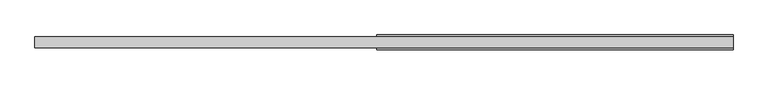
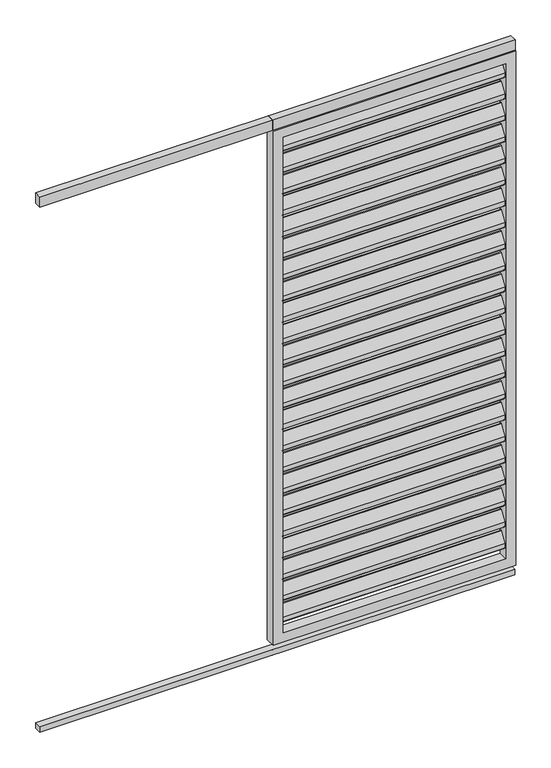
"""IFC4 building model written with IfcOpenShell, lengths in millimetres: proxy geometry, Renson_Camargue_Loggia_Paro_Aluminium : Renson_Camargue_Loggia_Paro_Aluminium."""

from ifc_helpers import new_model, si_unit, point, frame, frame_2d, origin, origin_with_axes, place, context, project, spatial, polyline, circle_curve, trimmed, segment, composite_curve, outline, extrude, source, transform, mapped, element, save


def generic_models_f57387b0(model_context):
    return source(origin(), model_context, "Body", "SweptSolid", [
        extrude(outline(composite_curve([segment(trimmed(circle_curve(frame_2d((12.6675921, 2162.6587719)), 3.0), [point((10.1515804, 2164.292689))], [point((15.6675921, 2162.6587719))], False, "CARTESIAN"), True, "CONTINUOUS"), segment(polyline([(15.6675921, 2162.6587719), (15.6675921, 2144.2979873)]), True, "CONTINUOUS"), segment(trimmed(circle_curve(frame_2d((12.6675921, 2144.2979873)), 3.0), [point((15.6675921, 2144.2979873))], [point((15.1836038, 2142.6640702))], False, "CARTESIAN"), True, "CONTINUOUS"), segment(polyline([(15.1836038, 2142.6640702), (-8.8163962, 2105.707311)]), True, "CONTINUOUS"), segment(trimmed(circle_curve(frame_2d((-11.3324079, 2107.3412281)), 3.0), [point((-8.8163962, 2105.707311))], [point((-14.3324079, 2107.3412281))], False, "CARTESIAN"), True, "CONTINUOUS"), segment(polyline([(-14.3324079, 2107.3412281), (-14.3324079, 2126.5906532), (10.1515804, 2164.292689)]), True, "CONTINUOUS")], self_intersect=False)), frame((-442.5, 0.0, 0.0), z_axis=(1.0, 0.0, 0.0), x_axis=(0.0, 1.0, 0.0)), (0.0, 0.0, 1.0), 885.0),
        extrude(outline(composite_curve([segment(trimmed(circle_curve(frame_2d((12.6675921, 2072.6587719)), 3.0), [point((10.1515804, 2074.292689))], [point((15.6675921, 2072.6587719))], False, "CARTESIAN"), True, "CONTINUOUS"), segment(polyline([(15.6675921, 2072.6587719), (15.6675921, 2054.2979873)]), True, "CONTINUOUS"), segment(trimmed(circle_curve(frame_2d((12.6675921, 2054.2979873)), 3.0), [point((15.6675921, 2054.2979873))], [point((15.1836038, 2052.6640702))], False, "CARTESIAN"), True, "CONTINUOUS"), segment(polyline([(15.1836038, 2052.6640702), (-8.8163962, 2015.707311)]), True, "CONTINUOUS"), segment(trimmed(circle_curve(frame_2d((-11.3324079, 2017.3412281)), 3.0), [point((-8.8163962, 2015.707311))], [point((-14.3324079, 2017.3412281))], False, "CARTESIAN"), True, "CONTINUOUS"), segment(polyline([(-14.3324079, 2017.3412281), (-14.3324079, 2036.5906532), (10.1515804, 2074.292689)]), True, "CONTINUOUS")], self_intersect=False)), frame((-442.5, 0.0, 0.0), z_axis=(1.0, 0.0, 0.0), x_axis=(0.0, 1.0, 0.0)), (0.0, 0.0, 1.0), 885.0),
        extrude(outline(composite_curve([segment(trimmed(circle_curve(frame_2d((12.6675921, 1982.6587719)), 3.0), [point((10.1515804, 1984.292689))], [point((15.6675921, 1982.6587719))], False, "CARTESIAN"), True, "CONTINUOUS"), segment(polyline([(15.6675921, 1982.6587719), (15.6675921, 1964.2979873)]), True, "CONTINUOUS"), segment(trimmed(circle_curve(frame_2d((12.6675921, 1964.2979873)), 3.0), [point((15.6675921, 1964.2979873))], [point((15.1836038, 1962.6640702))], False, "CARTESIAN"), True, "CONTINUOUS"), segment(polyline([(15.1836038, 1962.6640702), (-8.8163962, 1925.707311)]), True, "CONTINUOUS"), segment(trimmed(circle_curve(frame_2d((-11.3324079, 1927.3412281)), 3.0), [point((-8.8163962, 1925.707311))], [point((-14.3324079, 1927.3412281))], False, "CARTESIAN"), True, "CONTINUOUS"), segment(polyline([(-14.3324079, 1927.3412281), (-14.3324079, 1946.5906532), (10.1515804, 1984.292689)]), True, "CONTINUOUS")], self_intersect=False)), frame((-442.5, 0.0, 0.0), z_axis=(1.0, 0.0, 0.0), x_axis=(0.0, 1.0, 0.0)), (0.0, 0.0, 1.0), 885.0),
        extrude(outline(composite_curve([segment(trimmed(circle_curve(frame_2d((12.6675921, 1892.6587719)), 3.0), [point((10.1515804, 1894.292689))], [point((15.6675921, 1892.6587719))], False, "CARTESIAN"), True, "CONTINUOUS"), segment(polyline([(15.6675921, 1892.6587719), (15.6675921, 1874.2979873)]), True, "CONTINUOUS"), segment(trimmed(circle_curve(frame_2d((12.6675921, 1874.2979873)), 3.0), [point((15.6675921, 1874.2979873))], [point((15.1836038, 1872.6640702))], False, "CARTESIAN"), True, "CONTINUOUS"), segment(polyline([(15.1836038, 1872.6640702), (-8.8163962, 1835.707311)]), True, "CONTINUOUS"), segment(trimmed(circle_curve(frame_2d((-11.3324079, 1837.3412281)), 3.0), [point((-8.8163962, 1835.707311))], [point((-14.3324079, 1837.3412281))], False, "CARTESIAN"), True, "CONTINUOUS"), segment(polyline([(-14.3324079, 1837.3412281), (-14.3324079, 1856.5906532), (10.1515804, 1894.292689)]), True, "CONTINUOUS")], self_intersect=False)), frame((-442.5, 0.0, 0.0), z_axis=(1.0, 0.0, 0.0), x_axis=(0.0, 1.0, 0.0)), (0.0, 0.0, 1.0), 885.0),
        extrude(outline(composite_curve([segment(trimmed(circle_curve(frame_2d((12.6675921, 1802.6587719)), 3.0), [point((10.1515804, 1804.292689))], [point((15.6675921, 1802.6587719))], False, "CARTESIAN"), True, "CONTINUOUS"), segment(polyline([(15.6675921, 1802.6587719), (15.6675921, 1784.2979873)]), True, "CONTINUOUS"), segment(trimmed(circle_curve(frame_2d((12.6675921, 1784.2979873)), 3.0), [point((15.6675921, 1784.2979873))], [point((15.1836038, 1782.6640702))], False, "CARTESIAN"), True, "CONTINUOUS"), segment(polyline([(15.1836038, 1782.6640702), (-8.8163962, 1745.707311)]), True, "CONTINUOUS"), segment(trimmed(circle_curve(frame_2d((-11.3324079, 1747.3412281)), 3.0), [point((-8.8163962, 1745.707311))], [point((-14.3324079, 1747.3412281))], False, "CARTESIAN"), True, "CONTINUOUS"), segment(polyline([(-14.3324079, 1747.3412281), (-14.3324079, 1766.5906532), (10.1515804, 1804.292689)]), True, "CONTINUOUS")], self_intersect=False)), frame((-442.5, 0.0, 0.0), z_axis=(1.0, 0.0, 0.0), x_axis=(0.0, 1.0, 0.0)), (0.0, 0.0, 1.0), 885.0),
        extrude(outline(composite_curve([segment(trimmed(circle_curve(frame_2d((12.6675921, 1712.6587719)), 3.0), [point((10.1515804, 1714.292689))], [point((15.6675921, 1712.6587719))], False, "CARTESIAN"), True, "CONTINUOUS"), segment(polyline([(15.6675921, 1712.6587719), (15.6675921, 1694.2979873)]), True, "CONTINUOUS"), segment(trimmed(circle_curve(frame_2d((12.6675921, 1694.2979873)), 3.0), [point((15.6675921, 1694.2979873))], [point((15.1836038, 1692.6640702))], False, "CARTESIAN"), True, "CONTINUOUS"), segment(polyline([(15.1836038, 1692.6640702), (-8.8163962, 1655.707311)]), True, "CONTINUOUS"), segment(trimmed(circle_curve(frame_2d((-11.3324079, 1657.3412281)), 3.0), [point((-8.8163962, 1655.707311))], [point((-14.3324079, 1657.3412281))], False, "CARTESIAN"), True, "CONTINUOUS"), segment(polyline([(-14.3324079, 1657.3412281), (-14.3324079, 1676.5906532), (10.1515804, 1714.292689)]), True, "CONTINUOUS")], self_intersect=False)), frame((-442.5, 0.0, 0.0), z_axis=(1.0, 0.0, 0.0), x_axis=(0.0, 1.0, 0.0)), (0.0, 0.0, 1.0), 885.0),
        extrude(outline(composite_curve([segment(trimmed(circle_curve(frame_2d((12.6675921, 1622.6587719)), 3.0), [point((10.1515804, 1624.292689))], [point((15.6675921, 1622.6587719))], False, "CARTESIAN"), True, "CONTINUOUS"), segment(polyline([(15.6675921, 1622.6587719), (15.6675921, 1604.2979873)]), True, "CONTINUOUS"), segment(trimmed(circle_curve(frame_2d((12.6675921, 1604.2979873)), 3.0), [point((15.6675921, 1604.2979873))], [point((15.1836038, 1602.6640702))], False, "CARTESIAN"), True, "CONTINUOUS"), segment(polyline([(15.1836038, 1602.6640702), (-8.8163962, 1565.707311)]), True, "CONTINUOUS"), segment(trimmed(circle_curve(frame_2d((-11.3324079, 1567.3412281)), 3.0), [point((-8.8163962, 1565.707311))], [point((-14.3324079, 1567.3412281))], False, "CARTESIAN"), True, "CONTINUOUS"), segment(polyline([(-14.3324079, 1567.3412281), (-14.3324079, 1586.5906532), (10.1515804, 1624.292689)]), True, "CONTINUOUS")], self_intersect=False)), frame((-442.5, 0.0, 0.0), z_axis=(1.0, 0.0, 0.0), x_axis=(0.0, 1.0, 0.0)), (0.0, 0.0, 1.0), 885.0),
        extrude(outline(composite_curve([segment(trimmed(circle_curve(frame_2d((12.6675921, 1532.6587719)), 3.0), [point((10.1515804, 1534.292689))], [point((15.6675921, 1532.6587719))], False, "CARTESIAN"), True, "CONTINUOUS"), segment(polyline([(15.6675921, 1532.6587719), (15.6675921, 1514.2979873)]), True, "CONTINUOUS"), segment(trimmed(circle_curve(frame_2d((12.6675921, 1514.2979873)), 3.0), [point((15.6675921, 1514.2979873))], [point((15.1836038, 1512.6640702))], False, "CARTESIAN"), True, "CONTINUOUS"), segment(polyline([(15.1836038, 1512.6640702), (-8.8163962, 1475.707311)]), True, "CONTINUOUS"), segment(trimmed(circle_curve(frame_2d((-11.3324079, 1477.3412281)), 3.0), [point((-8.8163962, 1475.707311))], [point((-14.3324079, 1477.3412281))], False, "CARTESIAN"), True, "CONTINUOUS"), segment(polyline([(-14.3324079, 1477.3412281), (-14.3324079, 1496.5906532), (10.1515804, 1534.292689)]), True, "CONTINUOUS")], self_intersect=False)), frame((-442.5, 0.0, 0.0), z_axis=(1.0, 0.0, 0.0), x_axis=(0.0, 1.0, 0.0)), (0.0, 0.0, 1.0), 885.0),
        extrude(outline(composite_curve([segment(trimmed(circle_curve(frame_2d((12.6675921, 1442.6587719)), 3.0), [point((10.1515804, 1444.292689))], [point((15.6675921, 1442.6587719))], False, "CARTESIAN"), True, "CONTINUOUS"), segment(polyline([(15.6675921, 1442.6587719), (15.6675921, 1424.2979873)]), True, "CONTINUOUS"), segment(trimmed(circle_curve(frame_2d((12.6675921, 1424.2979873)), 3.0), [point((15.6675921, 1424.2979873))], [point((15.1836038, 1422.6640702))], False, "CARTESIAN"), True, "CONTINUOUS"), segment(polyline([(15.1836038, 1422.6640702), (-8.8163962, 1385.707311)]), True, "CONTINUOUS"), segment(trimmed(circle_curve(frame_2d((-11.3324079, 1387.3412281)), 3.0), [point((-8.8163962, 1385.707311))], [point((-14.3324079, 1387.3412281))], False, "CARTESIAN"), True, "CONTINUOUS"), segment(polyline([(-14.3324079, 1387.3412281), (-14.3324079, 1406.5906532), (10.1515804, 1444.292689)]), True, "CONTINUOUS")], self_intersect=False)), frame((-442.5, 0.0, 0.0), z_axis=(1.0, 0.0, 0.0), x_axis=(0.0, 1.0, 0.0)), (0.0, 0.0, 1.0), 885.0),
        extrude(outline(composite_curve([segment(trimmed(circle_curve(frame_2d((12.6675921, 1352.6587719)), 3.0), [point((10.1515804, 1354.292689))], [point((15.6675921, 1352.6587719))], False, "CARTESIAN"), True, "CONTINUOUS"), segment(polyline([(15.6675921, 1352.6587719), (15.6675921, 1334.2979873)]), True, "CONTINUOUS"), segment(trimmed(circle_curve(frame_2d((12.6675921, 1334.2979873)), 3.0), [point((15.6675921, 1334.2979873))], [point((15.1836038, 1332.6640702))], False, "CARTESIAN"), True, "CONTINUOUS"), segment(polyline([(15.1836038, 1332.6640702), (-8.8163962, 1295.707311)]), True, "CONTINUOUS"), segment(trimmed(circle_curve(frame_2d((-11.3324079, 1297.3412281)), 3.0), [point((-8.8163962, 1295.707311))], [point((-14.3324079, 1297.3412281))], False, "CARTESIAN"), True, "CONTINUOUS"), segment(polyline([(-14.3324079, 1297.3412281), (-14.3324079, 1316.5906532), (10.1515804, 1354.292689)]), True, "CONTINUOUS")], self_intersect=False)), frame((-442.5, 0.0, 0.0), z_axis=(1.0, 0.0, 0.0), x_axis=(0.0, 1.0, 0.0)), (0.0, 0.0, 1.0), 885.0),
        extrude(outline(composite_curve([segment(trimmed(circle_curve(frame_2d((12.6675921, 1262.6587719)), 3.0), [point((10.1515804, 1264.292689))], [point((15.6675921, 1262.6587719))], False, "CARTESIAN"), True, "CONTINUOUS"), segment(polyline([(15.6675921, 1262.6587719), (15.6675921, 1244.2979873)]), True, "CONTINUOUS"), segment(trimmed(circle_curve(frame_2d((12.6675921, 1244.2979873)), 3.0), [point((15.6675921, 1244.2979873))], [point((15.1836038, 1242.6640702))], False, "CARTESIAN"), True, "CONTINUOUS"), segment(polyline([(15.1836038, 1242.6640702), (-8.8163962, 1205.707311)]), True, "CONTINUOUS"), segment(trimmed(circle_curve(frame_2d((-11.3324079, 1207.3412281)), 3.0), [point((-8.8163962, 1205.707311))], [point((-14.3324079, 1207.3412281))], False, "CARTESIAN"), True, "CONTINUOUS"), segment(polyline([(-14.3324079, 1207.3412281), (-14.3324079, 1226.5906532), (10.1515804, 1264.292689)]), True, "CONTINUOUS")], self_intersect=False)), frame((-442.5, 0.0, 0.0), z_axis=(1.0, 0.0, 0.0), x_axis=(0.0, 1.0, 0.0)), (0.0, 0.0, 1.0), 885.0),
        extrude(outline(composite_curve([segment(trimmed(circle_curve(frame_2d((12.6675921, 1172.6587719)), 3.0), [point((10.1515804, 1174.292689))], [point((15.6675921, 1172.6587719))], False, "CARTESIAN"), True, "CONTINUOUS"), segment(polyline([(15.6675921, 1172.6587719), (15.6675921, 1154.2979873)]), True, "CONTINUOUS"), segment(trimmed(circle_curve(frame_2d((12.6675921, 1154.2979873)), 3.0), [point((15.6675921, 1154.2979873))], [point((15.1836038, 1152.6640702))], False, "CARTESIAN"), True, "CONTINUOUS"), segment(polyline([(15.1836038, 1152.6640702), (-8.8163962, 1115.707311)]), True, "CONTINUOUS"), segment(trimmed(circle_curve(frame_2d((-11.3324079, 1117.3412281)), 3.0), [point((-8.8163962, 1115.707311))], [point((-14.3324079, 1117.3412281))], False, "CARTESIAN"), True, "CONTINUOUS"), segment(polyline([(-14.3324079, 1117.3412281), (-14.3324079, 1136.5906532), (10.1515804, 1174.292689)]), True, "CONTINUOUS")], self_intersect=False)), frame((-442.5, 0.0, 0.0), z_axis=(1.0, 0.0, 0.0), x_axis=(0.0, 1.0, 0.0)), (0.0, 0.0, 1.0), 885.0),
        extrude(outline(composite_curve([segment(trimmed(circle_curve(frame_2d((12.6675921, 1082.6587719)), 3.0), [point((10.1515804, 1084.292689))], [point((15.6675921, 1082.6587719))], False, "CARTESIAN"), True, "CONTINUOUS"), segment(polyline([(15.6675921, 1082.6587719), (15.6675921, 1064.2979873)]), True, "CONTINUOUS"), segment(trimmed(circle_curve(frame_2d((12.6675921, 1064.2979873)), 3.0), [point((15.6675921, 1064.2979873))], [point((15.1836038, 1062.6640702))], False, "CARTESIAN"), True, "CONTINUOUS"), segment(polyline([(15.1836038, 1062.6640702), (-8.8163962, 1025.707311)]), True, "CONTINUOUS"), segment(trimmed(circle_curve(frame_2d((-11.3324079, 1027.3412281)), 3.0), [point((-8.8163962, 1025.707311))], [point((-14.3324079, 1027.3412281))], False, "CARTESIAN"), True, "CONTINUOUS"), segment(polyline([(-14.3324079, 1027.3412281), (-14.3324079, 1046.5906532), (10.1515804, 1084.292689)]), True, "CONTINUOUS")], self_intersect=False)), frame((-442.5, 0.0, 0.0), z_axis=(1.0, 0.0, 0.0), x_axis=(0.0, 1.0, 0.0)), (0.0, 0.0, 1.0), 885.0),
        extrude(outline(composite_curve([segment(trimmed(circle_curve(frame_2d((12.6675921, 992.6587719)), 3.0), [point((10.1515804, 994.292689))], [point((15.6675921, 992.6587719))], False, "CARTESIAN"), True, "CONTINUOUS"), segment(polyline([(15.6675921, 992.6587719), (15.6675921, 974.2979873)]), True, "CONTINUOUS"), segment(trimmed(circle_curve(frame_2d((12.6675921, 974.2979873)), 3.0), [point((15.6675921, 974.2979873))], [point((15.1836038, 972.6640702))], False, "CARTESIAN"), True, "CONTINUOUS"), segment(polyline([(15.1836038, 972.6640702), (-8.8163962, 935.707311)]), True, "CONTINUOUS"), segment(trimmed(circle_curve(frame_2d((-11.3324079, 937.3412281)), 3.0), [point((-8.8163962, 935.707311))], [point((-14.3324079, 937.3412281))], False, "CARTESIAN"), True, "CONTINUOUS"), segment(polyline([(-14.3324079, 937.3412281), (-14.3324079, 956.5906532), (10.1515804, 994.292689)]), True, "CONTINUOUS")], self_intersect=False)), frame((-442.5, 0.0, 0.0), z_axis=(1.0, 0.0, 0.0), x_axis=(0.0, 1.0, 0.0)), (0.0, 0.0, 1.0), 885.0),
        extrude(outline(composite_curve([segment(trimmed(circle_curve(frame_2d((12.6675921, 902.6587719)), 3.0), [point((10.1515804, 904.292689))], [point((15.6675921, 902.6587719))], False, "CARTESIAN"), True, "CONTINUOUS"), segment(polyline([(15.6675921, 902.6587719), (15.6675921, 884.2979873)]), True, "CONTINUOUS"), segment(trimmed(circle_curve(frame_2d((12.6675921, 884.2979873)), 3.0), [point((15.6675921, 884.2979873))], [point((15.1836038, 882.6640702))], False, "CARTESIAN"), True, "CONTINUOUS"), segment(polyline([(15.1836038, 882.6640702), (-8.8163962, 845.707311)]), True, "CONTINUOUS"), segment(trimmed(circle_curve(frame_2d((-11.3324079, 847.3412281)), 3.0), [point((-8.8163962, 845.707311))], [point((-14.3324079, 847.3412281))], False, "CARTESIAN"), True, "CONTINUOUS"), segment(polyline([(-14.3324079, 847.3412281), (-14.3324079, 866.5906532), (10.1515804, 904.292689)]), True, "CONTINUOUS")], self_intersect=False)), frame((-442.5, 0.0, 0.0), z_axis=(1.0, 0.0, 0.0), x_axis=(0.0, 1.0, 0.0)), (0.0, 0.0, 1.0), 885.0),
        extrude(outline(composite_curve([segment(trimmed(circle_curve(frame_2d((12.6675921, 812.6587719)), 3.0), [point((10.1515804, 814.292689))], [point((15.6675921, 812.6587719))], False, "CARTESIAN"), True, "CONTINUOUS"), segment(polyline([(15.6675921, 812.6587719), (15.6675921, 794.2979873)]), True, "CONTINUOUS"), segment(trimmed(circle_curve(frame_2d((12.6675921, 794.2979873)), 3.0), [point((15.6675921, 794.2979873))], [point((15.1836038, 792.6640702))], False, "CARTESIAN"), True, "CONTINUOUS"), segment(polyline([(15.1836038, 792.6640702), (-8.8163962, 755.707311)]), True, "CONTINUOUS"), segment(trimmed(circle_curve(frame_2d((-11.3324079, 757.3412281)), 3.0), [point((-8.8163962, 755.707311))], [point((-14.3324079, 757.3412281))], False, "CARTESIAN"), True, "CONTINUOUS"), segment(polyline([(-14.3324079, 757.3412281), (-14.3324079, 776.5906532), (10.1515804, 814.292689)]), True, "CONTINUOUS")], self_intersect=False)), frame((-442.5, 0.0, 0.0), z_axis=(1.0, 0.0, 0.0), x_axis=(0.0, 1.0, 0.0)), (0.0, 0.0, 1.0), 885.0),
        extrude(outline(composite_curve([segment(trimmed(circle_curve(frame_2d((12.6675921, 722.6587719)), 3.0), [point((10.1515804, 724.292689))], [point((15.6675921, 722.6587719))], False, "CARTESIAN"), True, "CONTINUOUS"), segment(polyline([(15.6675921, 722.6587719), (15.6675921, 704.2979873)]), True, "CONTINUOUS"), segment(trimmed(circle_curve(frame_2d((12.6675921, 704.2979873)), 3.0), [point((15.6675921, 704.2979873))], [point((15.1836038, 702.6640702))], False, "CARTESIAN"), True, "CONTINUOUS"), segment(polyline([(15.1836038, 702.6640702), (-8.8163962, 665.707311)]), True, "CONTINUOUS"), segment(trimmed(circle_curve(frame_2d((-11.3324079, 667.3412281)), 3.0), [point((-8.8163962, 665.707311))], [point((-14.3324079, 667.3412281))], False, "CARTESIAN"), True, "CONTINUOUS"), segment(polyline([(-14.3324079, 667.3412281), (-14.3324079, 686.5906532), (10.1515804, 724.292689)]), True, "CONTINUOUS")], self_intersect=False)), frame((-442.5, 0.0, 0.0), z_axis=(1.0, 0.0, 0.0), x_axis=(0.0, 1.0, 0.0)), (0.0, 0.0, 1.0), 885.0),
        extrude(outline(composite_curve([segment(trimmed(circle_curve(frame_2d((12.6675921, 632.6587719)), 3.0), [point((10.1515804, 634.292689))], [point((15.6675921, 632.6587719))], False, "CARTESIAN"), True, "CONTINUOUS"), segment(polyline([(15.6675921, 632.6587719), (15.6675921, 614.2979873)]), True, "CONTINUOUS"), segment(trimmed(circle_curve(frame_2d((12.6675921, 614.2979873)), 3.0), [point((15.6675921, 614.2979873))], [point((15.1836038, 612.6640702))], False, "CARTESIAN"), True, "CONTINUOUS"), segment(polyline([(15.1836038, 612.6640702), (-8.8163962, 575.707311)]), True, "CONTINUOUS"), segment(trimmed(circle_curve(frame_2d((-11.3324079, 577.3412281)), 3.0), [point((-8.8163962, 575.707311))], [point((-14.3324079, 577.3412281))], False, "CARTESIAN"), True, "CONTINUOUS"), segment(polyline([(-14.3324079, 577.3412281), (-14.3324079, 596.5906532), (10.1515804, 634.292689)]), True, "CONTINUOUS")], self_intersect=False)), frame((-442.5, 0.0, 0.0), z_axis=(1.0, 0.0, 0.0), x_axis=(0.0, 1.0, 0.0)), (0.0, 0.0, 1.0), 885.0),
        extrude(outline(composite_curve([segment(trimmed(circle_curve(frame_2d((12.6675921, 542.6587719)), 3.0), [point((10.1515804, 544.292689))], [point((15.6675921, 542.6587719))], False, "CARTESIAN"), True, "CONTINUOUS"), segment(polyline([(15.6675921, 542.6587719), (15.6675921, 524.2979873)]), True, "CONTINUOUS"), segment(trimmed(circle_curve(frame_2d((12.6675921, 524.2979873)), 3.0), [point((15.6675921, 524.2979873))], [point((15.1836038, 522.6640702))], False, "CARTESIAN"), True, "CONTINUOUS"), segment(polyline([(15.1836038, 522.6640702), (-8.8163962, 485.707311)]), True, "CONTINUOUS"), segment(trimmed(circle_curve(frame_2d((-11.3324079, 487.3412281)), 3.0), [point((-8.8163962, 485.707311))], [point((-14.3324079, 487.3412281))], False, "CARTESIAN"), True, "CONTINUOUS"), segment(polyline([(-14.3324079, 487.3412281), (-14.3324079, 506.5906532), (10.1515804, 544.292689)]), True, "CONTINUOUS")], self_intersect=False)), frame((-442.5, 0.0, 0.0), z_axis=(1.0, 0.0, 0.0), x_axis=(0.0, 1.0, 0.0)), (0.0, 0.0, 1.0), 885.0),
        extrude(outline(composite_curve([segment(trimmed(circle_curve(frame_2d((12.6675921, 452.6587719)), 3.0), [point((10.1515804, 454.292689))], [point((15.6675921, 452.6587719))], False, "CARTESIAN"), True, "CONTINUOUS"), segment(polyline([(15.6675921, 452.6587719), (15.6675921, 434.2979873)]), True, "CONTINUOUS"), segment(trimmed(circle_curve(frame_2d((12.6675921, 434.2979873)), 3.0), [point((15.6675921, 434.2979873))], [point((15.1836038, 432.6640702))], False, "CARTESIAN"), True, "CONTINUOUS"), segment(polyline([(15.1836038, 432.6640702), (-8.8163962, 395.707311)]), True, "CONTINUOUS"), segment(trimmed(circle_curve(frame_2d((-11.3324079, 397.3412281)), 3.0), [point((-8.8163962, 395.707311))], [point((-14.3324079, 397.3412281))], False, "CARTESIAN"), True, "CONTINUOUS"), segment(polyline([(-14.3324079, 397.3412281), (-14.3324079, 416.5906532), (10.1515804, 454.292689)]), True, "CONTINUOUS")], self_intersect=False)), frame((-442.5, 0.0, 0.0), z_axis=(1.0, 0.0, 0.0), x_axis=(0.0, 1.0, 0.0)), (0.0, 0.0, 1.0), 885.0),
        extrude(outline(composite_curve([segment(trimmed(circle_curve(frame_2d((12.6675921, 362.6587719)), 3.0), [point((10.1515804, 364.292689))], [point((15.6675921, 362.6587719))], False, "CARTESIAN"), True, "CONTINUOUS"), segment(polyline([(15.6675921, 362.6587719), (15.6675921, 344.2979873)]), True, "CONTINUOUS"), segment(trimmed(circle_curve(frame_2d((12.6675921, 344.2979873)), 3.0), [point((15.6675921, 344.2979873))], [point((15.1836038, 342.6640702))], False, "CARTESIAN"), True, "CONTINUOUS"), segment(polyline([(15.1836038, 342.6640702), (-8.8163962, 305.707311)]), True, "CONTINUOUS"), segment(trimmed(circle_curve(frame_2d((-11.3324079, 307.3412281)), 3.0), [point((-8.8163962, 305.707311))], [point((-14.3324079, 307.3412281))], False, "CARTESIAN"), True, "CONTINUOUS"), segment(polyline([(-14.3324079, 307.3412281), (-14.3324079, 326.5906532), (10.1515804, 364.292689)]), True, "CONTINUOUS")], self_intersect=False)), frame((-442.5, 0.0, 0.0), z_axis=(1.0, 0.0, 0.0), x_axis=(0.0, 1.0, 0.0)), (0.0, 0.0, 1.0), 885.0),
        extrude(outline(composite_curve([segment(trimmed(circle_curve(frame_2d((12.6675921, 272.6587719)), 3.0), [point((10.1515804, 274.292689))], [point((15.6675921, 272.6587719))], False, "CARTESIAN"), True, "CONTINUOUS"), segment(polyline([(15.6675921, 272.6587719), (15.6675921, 254.2979873)]), True, "CONTINUOUS"), segment(trimmed(circle_curve(frame_2d((12.6675921, 254.2979873)), 3.0), [point((15.6675921, 254.2979873))], [point((15.1836038, 252.6640702))], False, "CARTESIAN"), True, "CONTINUOUS"), segment(polyline([(15.1836038, 252.6640702), (-8.8163962, 215.707311)]), True, "CONTINUOUS"), segment(trimmed(circle_curve(frame_2d((-11.3324079, 217.3412281)), 3.0), [point((-8.8163962, 215.707311))], [point((-14.3324079, 217.3412281))], False, "CARTESIAN"), True, "CONTINUOUS"), segment(polyline([(-14.3324079, 217.3412281), (-14.3324079, 236.5906532), (10.1515804, 274.292689)]), True, "CONTINUOUS")], self_intersect=False)), frame((-442.5, 0.0, 0.0), z_axis=(1.0, 0.0, 0.0), x_axis=(0.0, 1.0, 0.0)), (0.0, 0.0, 1.0), 885.0),
        extrude(outline(composite_curve([segment(trimmed(circle_curve(frame_2d((12.6675921, 182.6587719)), 3.0), [point((10.1515804, 184.292689))], [point((15.6675921, 182.6587719))], False, "CARTESIAN"), True, "CONTINUOUS"), segment(polyline([(15.6675921, 182.6587719), (15.6675921, 164.2979873)]), True, "CONTINUOUS"), segment(trimmed(circle_curve(frame_2d((12.6675921, 164.2979873)), 3.0), [point((15.6675921, 164.2979873))], [point((15.1836038, 162.6640702))], False, "CARTESIAN"), True, "CONTINUOUS"), segment(polyline([(15.1836038, 162.6640702), (-8.8163962, 125.707311)]), True, "CONTINUOUS"), segment(trimmed(circle_curve(frame_2d((-11.3324079, 127.3412281)), 3.0), [point((-8.8163962, 125.707311))], [point((-14.3324079, 127.3412281))], False, "CARTESIAN"), True, "CONTINUOUS"), segment(polyline([(-14.3324079, 127.3412281), (-14.3324079, 146.5906532), (10.1515804, 184.292689)]), True, "CONTINUOUS")], self_intersect=False)), frame((-442.5, 0.0, 0.0), z_axis=(1.0, 0.0, 0.0), x_axis=(0.0, 1.0, 0.0)), (0.0, 0.0, 1.0), 885.0),
        extrude(outline(polyline([(482.5, 15.0), (482.5, -15.0), (-1407.5, -15.0), (-1407.5, 15.0), (482.5, 15.0)])), frame((0.0, 0.0, 2207.7138321), z_axis=(0.0, 0.0, 1.0), x_axis=(1.0, 0.0, 0.0)), (0.0, 0.0, 1.0), 42.2861679),
        extrude(outline(polyline([(-481.5, 15.0), (-481.5, -15.0), (-482.5, -15.0), (-482.5, 15.0), (-481.5, 15.0)])), frame((0.0, 0.0, 2207.7138321), z_axis=(0.0, 0.0, 1.0), x_axis=(1.0, 0.0, 0.0)), (0.0, 0.0, 1.0), 42.2861679),
        extrude(outline(polyline([(482.5, -13.0), (-1407.5, -13.0), (-1407.5, 14.0), (482.5, 14.0), (482.5, -13.0)])), origin_with_axes(), (0.0, 0.0, 1.0), 23.0),
        extrude(outline(polyline([(-481.5, -13.0), (-482.5, -13.0), (-482.5, 14.0), (-481.5, 14.0), (-481.5, -13.0)])), origin_with_axes(), (0.0, 0.0, 1.0), 23.0),
        extrude(outline(polyline([(2207.7138321, -482.5), (45.0, -482.5), (45.0, 482.5), (2207.7138321, 482.5), (2207.7138321, -482.5)]), holes=[polyline([(2167.7138321, 442.5), (85.0, 442.5), (85.0, -442.5), (2167.7138321, -442.5), (2167.7138321, 442.5)])]), frame((0.0, -20.0, 0.0), z_axis=(0.0, 1.0, 0.0), x_axis=(0.0, 0.0, 1.0)), (0.0, 0.0, 1.0), 40.0),
    ])


if __name__ == "__main__":
    model = new_model("IFC4")
    model_context = context("Model", 3, world=origin())
    ifc_project = project(units=[si_unit("LENGTHUNIT", "METRE", prefix="MILLI")], contexts=[model_context])
    site = spatial("IfcSite", under=ifc_project)
    building = spatial("IfcBuilding", under=site)
    placement = place(None, origin())
    generic_models_shape = generic_models_f57387b0(model_context)
    element("IfcBuildingElementProxy", 1, Name="Renson_Camargue_Loggia_Paro_Aluminium : Renson_Camargue_Loggia_Paro_Aluminium", ObjectType="Renson_Camargue_Loggia_Paro_Aluminium : Renson_Camargue_Loggia_Paro_Aluminium", at=placement, inside=building, context=model_context, shape_type="MappedRepresentation", body=[
        mapped(generic_models_shape, transform((0.0, 0.0, 0.0), x_axis=(1.0, 0.0, 0.0), y_axis=(0.0, 1.0, 0.0), z_axis=(0.0, 0.0, 1.0))),
    ])
    save(model, "model.ifc")
